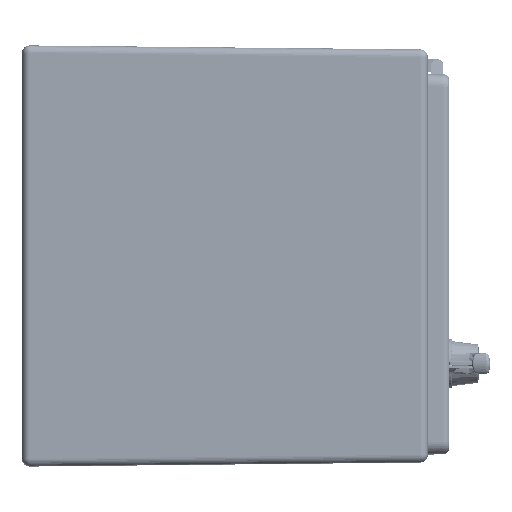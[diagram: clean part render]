
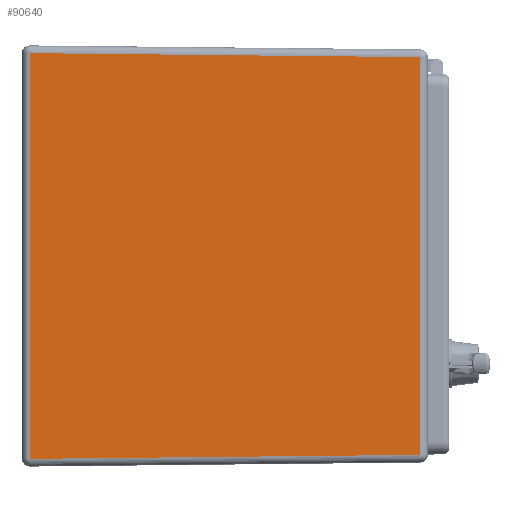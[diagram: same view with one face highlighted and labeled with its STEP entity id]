
A CAD part, front view. The second image highlights one B-rep face of the part: STEP entity #90640.
In plain terms, the highlighted planar face has unit normal (0, -1, 0).
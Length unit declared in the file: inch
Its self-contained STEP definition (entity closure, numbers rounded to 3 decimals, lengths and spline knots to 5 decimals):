
#3215 = FACE_OUTER_BOUND ( 'NONE', #98998, .T. ) ;
#3794 = CARTESIAN_POINT ( 'NONE',  ( 11.782, -35.79707, 12.2472 ) ) ;
#3799 = CARTESIAN_POINT ( 'NONE',  ( 11.782, -35.79707, -12.2472 ) ) ;
#3813 = CARTESIAN_POINT ( 'NONE',  ( -11.782, -35.79707, -12.00675 ) ) ;
#3816 = CARTESIAN_POINT ( 'NONE',  ( -11.782, -35.79707, 12.00675 ) ) ;
#19691 = CARTESIAN_POINT ( 'NONE',  ( -12.25, -35.79707, 12.72 ) ) ;
#19696 = PLANE ( 'NONE',  #99952 ) ;
#19701 = DIRECTION ( 'NONE',  ( 0., 1., 0. ) ) ;
#19702 = DIRECTION ( 'NONE',  ( -1., 0., 0. ) ) ;
#66473 = CARTESIAN_POINT ( 'NONE',  ( 11.782, -35.79707, 12.72 ) ) ;
#66474 = DIRECTION ( 'NONE',  ( 0., 0., 1. ) ) ;
#66494 = CARTESIAN_POINT ( 'NONE',  ( -12.50224, -35.79707, -11.9994 ) ) ;
#66508 = DIRECTION ( 'NONE',  ( 1., 0., -0.01 ) ) ;
#66509 = CARTESIAN_POINT ( 'NONE',  ( -11.782, -35.79707, 12.72 ) ) ;
#66510 = DIRECTION ( 'NONE',  ( 0., 0., -1. ) ) ;
#66511 = CARTESIAN_POINT ( 'NONE',  ( -12.24267, -35.79707, 12.00205 ) ) ;
#66513 = DIRECTION ( 'NONE',  ( -1., 0., -0.01 ) ) ;
#76631 = VERTEX_POINT ( 'NONE', #3794 ) ;
#76636 = VERTEX_POINT ( 'NONE', #3799 ) ;
#76650 = VERTEX_POINT ( 'NONE', #3813 ) ;
#76653 = VERTEX_POINT ( 'NONE', #3816 ) ;
#90640 = ADVANCED_FACE ( 'NONE', ( #3215 ), #19696, .F. ) ;
#98998 = EDGE_LOOP ( 'NONE', ( #114885, #114889, #114892, #114895 ) ) ;
#99952 = AXIS2_PLACEMENT_3D ( 'NONE', #19691, #19701, #19702 ) ;
#114885 = ORIENTED_EDGE ( 'NONE', *, *, #133496, .T. ) ;
#114889 = ORIENTED_EDGE ( 'NONE', *, *, #133495, .T. ) ;
#114892 = ORIENTED_EDGE ( 'NONE', *, *, #133483, .T. ) ;
#114895 = ORIENTED_EDGE ( 'NONE', *, *, #133497, .T. ) ;
#126757 = LINE ( 'NONE', #66473, #126759 ) ;
#126759 = VECTOR ( 'NONE', #66474, 39.37008 ) ;
#126763 = LINE ( 'NONE', #66494, #126804 ) ;
#126804 = VECTOR ( 'NONE', #66508, 39.37008 ) ;
#126808 = LINE ( 'NONE', #66509, #126810 ) ;
#126810 = VECTOR ( 'NONE', #66510, 39.37008 ) ;
#126812 = LINE ( 'NONE', #66511, #126814 ) ;
#126814 = VECTOR ( 'NONE', #66513, 39.37008 ) ;
#133483 = EDGE_CURVE ( 'NONE', #76636, #76631, #126757, .T. ) ;
#133495 = EDGE_CURVE ( 'NONE', #76650, #76636, #126763, .T. ) ;
#133496 = EDGE_CURVE ( 'NONE', #76653, #76650, #126808, .T. ) ;
#133497 = EDGE_CURVE ( 'NONE', #76631, #76653, #126812, .T. ) ;
